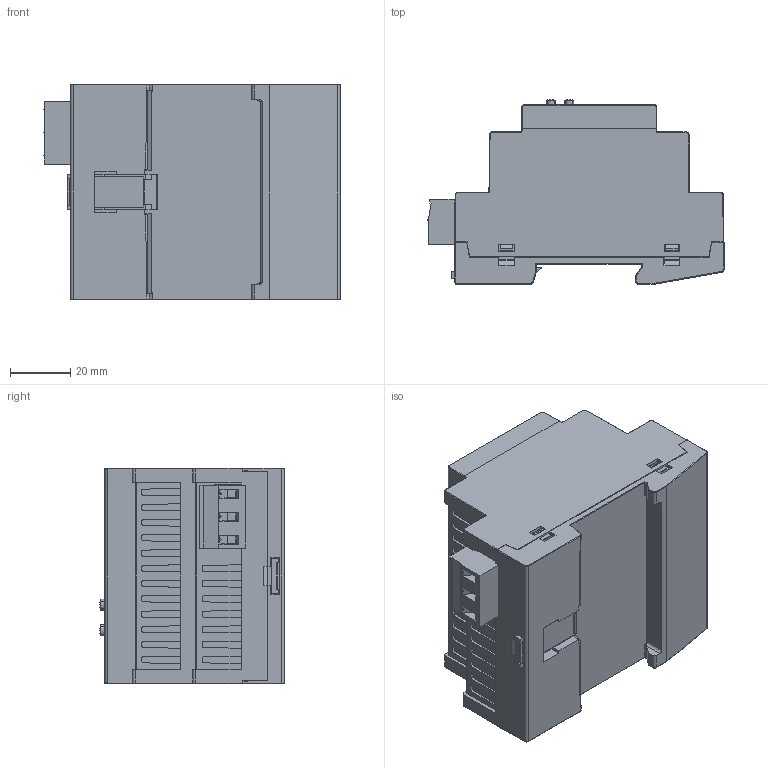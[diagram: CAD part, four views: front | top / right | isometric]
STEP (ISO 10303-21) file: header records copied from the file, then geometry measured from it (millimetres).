
FILE_DESCRIPTION(/* description */ (''),/* implementation_level */ '2;1');
FILE_NAME(/* name */ 'KNX_PowerSupply_USB_367.stp',/* time_stamp */ '2020-10-29T14:27:59+01:00',/* author */ (''),/* organization */ (''),/* preprocessor_version */ 'ST-DEVELOPER v18.1',/* originating_system */ 'Autodesk Inventor 2021',/* authorisation */ '');
FILE_SCHEMA (('AUTOMOTIVE_DESIGN { 1 0 10303 214 3 1 1 }'));
Products named in the file (1): KNX_PowerSupply_USB_367
Bounding box: 98.61 x 61.55 x 71.8 mm (x, y, z)
Volume: 292745.3 mm3; surface area: 38306 mm2
Topology: 1 solids, 17 shells, 1884 faces, 5138 edges, 3296 vertices
Faces by surface type: plane 1239, cylinder 487, cone 70, torus 39, sphere 35, bspline 14
Full cylindrical faces by diameter (mm): 1 x4, 1.1 x4, 3.7 x3, 3.8 x3
Entity records: 62096 total; most frequent: CARTESIAN_POINT 12003, ORIENTED_EDGE 10230, DIRECTION 9853, EDGE_CURVE 5115, LINE 3837, VECTOR 3837, VERTEX_POINT 3296, AXIS2_PLACEMENT_3D 3008
